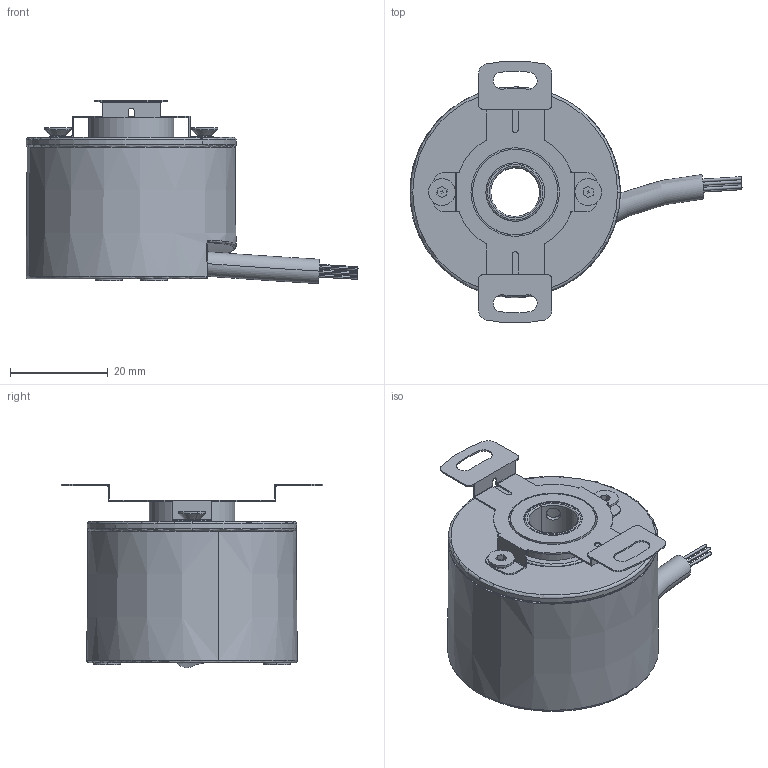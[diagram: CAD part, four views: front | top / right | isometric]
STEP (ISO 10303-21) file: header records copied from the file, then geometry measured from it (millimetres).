
FILE_DESCRIPTION (( 'STEP AP214' ), '1' );
FILE_NAME ('FNC40H10.STEP', '2022-06-15T05:59:48', ( '' ), ( '' ), 'SwSTEP 2.0', 'SolidWorks 2021', '' );
FILE_SCHEMA (( 'AUTOMOTIVE_DESIGN' ));
Length unit declared in the file: millimetre
Products named in the file (1): FNC40H10
Bounding box: 68.05 x 53.68 x 37.56 mm (x, y, z)
Volume: 22797.8 mm3; surface area: 20836.3 mm2
Topology: 1 solids, 10 shells, 717 faces, 2042 edges, 1366 vertices
Faces by surface type: cylinder 270, plane 199, cone 151, bspline 48, torus 42, sphere 7
Entity records: 33855 total; most frequent: CARTESIAN_POINT 15420, ORIENTED_EDGE 4062, DIRECTION 3706, EDGE_CURVE 2031, AXIS2_PLACEMENT_3D 1481, VERTEX_POINT 1366, CIRCLE 811, EDGE_LOOP 783
